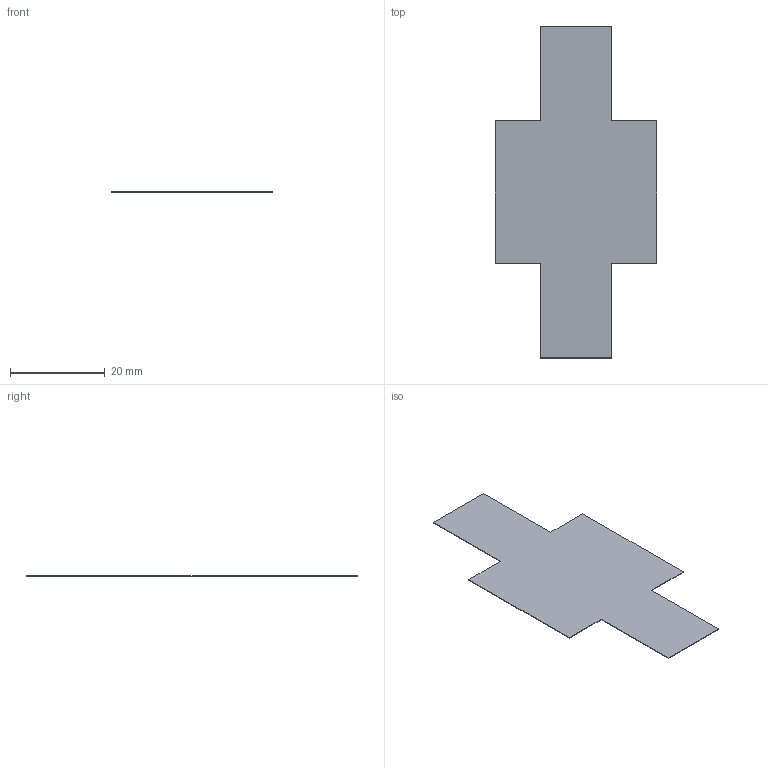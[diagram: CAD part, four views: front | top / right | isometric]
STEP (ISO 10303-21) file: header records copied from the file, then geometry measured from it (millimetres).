
FILE_DESCRIPTION (( 'STEP AP203' ), '1' );
FILE_NAME ('cover glass_lower.step', '2026-06-05T03:33:02', ( '' ), ( '' ), 'SwSTEP 2.0', 'SolidWorks 2024', '' );
FILE_SCHEMA (( 'CONFIG_CONTROL_DESIGN' ));
Length unit declared in the file: millimetre
Products named in the file (1): cover glass_lower
Bounding box: 34 x 70 x 0.13 mm (x, y, z)
Volume: 210.6 mm3; surface area: 3267 mm2
Topology: 1 solids, 1 shells, 14 faces, 36 edges, 24 vertices
Faces by surface type: plane 14
Entity records: 497 total; most frequent: CARTESIAN_POINT 75, ORIENTED_EDGE 72, DIRECTION 66, LINE 36, VECTOR 36, EDGE_CURVE 36, VERTEX_POINT 24, AXIS2_PLACEMENT_3D 15
